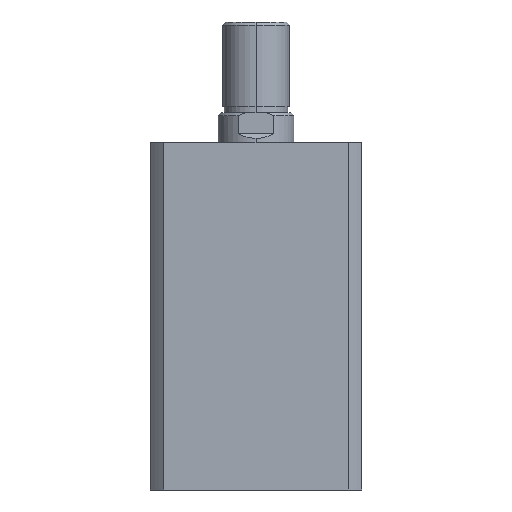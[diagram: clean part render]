
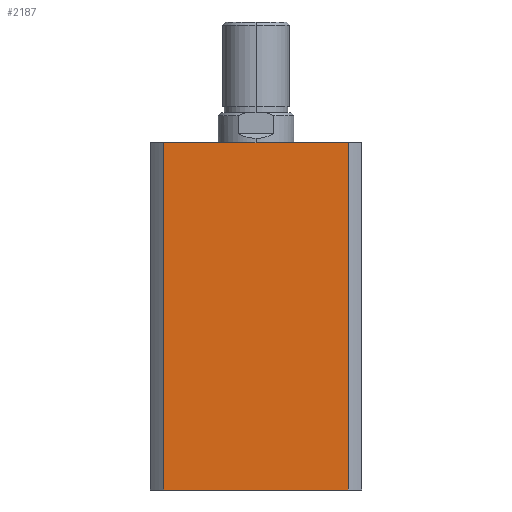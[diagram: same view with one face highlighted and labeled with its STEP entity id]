
A CAD part, left-side view. The second image highlights one B-rep face of the part: STEP entity #2187.
In plain terms, the highlighted planar face has unit normal (-1, 0, 0).
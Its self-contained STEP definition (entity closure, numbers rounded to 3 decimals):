
#23 = EDGE_CURVE ( 'NONE', #5011, #3749, #1191, .T. ) ;
#25 = EDGE_CURVE ( 'NONE', #4986, #5019, #1187, .T. ) ;
#26 = EDGE_CURVE ( 'NONE', #5011, #4986, #1189, .T. ) ;
#260 = FACE_OUTER_BOUND ( 'NONE', #2087, .T. ) ;
#287 = LINE ( 'NONE', #2547, #367 ) ;
#367 = VECTOR ( 'NONE', #2548, 1000. ) ;
#874 = CARTESIAN_POINT ( 'NONE',  ( -35., 0., 115. ) ) ;
#879 = PLANE ( 'NONE',  #2909 ) ;
#882 = DIRECTION ( 'NONE',  ( 1., 0., 0. ) ) ;
#883 = DIRECTION ( 'NONE',  ( 0., 1., 0. ) ) ;
#1183 = VECTOR ( 'NONE', #4553, 1000. ) ;
#1185 = VECTOR ( 'NONE', #4571, 1000. ) ;
#1187 = LINE ( 'NONE', #4564, #1185 ) ;
#1188 = VECTOR ( 'NONE', #4562, 1000. ) ;
#1189 = LINE ( 'NONE', #4557, #1183 ) ;
#1191 = LINE ( 'NONE', #4566, #1188 ) ;
#1858 = EDGE_CURVE ( 'NONE', #3749, #5019, #287, .T. ) ;
#2087 = EDGE_LOOP ( 'NONE', ( #4373, #4376, #4365, #4351 ) ) ;
#2187 = ADVANCED_FACE ( 'NONE', ( #260 ), #879, .F. ) ;
#2547 = CARTESIAN_POINT ( 'NONE',  ( -35., 0., 0. ) ) ;
#2548 = DIRECTION ( 'NONE',  ( 0., -1., 0. ) ) ;
#2909 = AXIS2_PLACEMENT_3D ( 'NONE', #874, #882, #883 ) ;
#3749 = VERTEX_POINT ( 'NONE', #3809 ) ;
#3809 = CARTESIAN_POINT ( 'NONE',  ( -35., 30.615, 0. ) ) ;
#3871 = CARTESIAN_POINT ( 'NONE',  ( -35., -30.615, 115. ) ) ;
#3896 = CARTESIAN_POINT ( 'NONE',  ( -35., 30.615, 115. ) ) ;
#3904 = CARTESIAN_POINT ( 'NONE',  ( -35., -30.615, 0. ) ) ;
#4351 = ORIENTED_EDGE ( 'NONE', *, *, #23, .T. ) ;
#4365 = ORIENTED_EDGE ( 'NONE', *, *, #26, .F. ) ;
#4373 = ORIENTED_EDGE ( 'NONE', *, *, #1858, .T. ) ;
#4376 = ORIENTED_EDGE ( 'NONE', *, *, #25, .F. ) ;
#4553 = DIRECTION ( 'NONE',  ( 0., -1., 0. ) ) ;
#4557 = CARTESIAN_POINT ( 'NONE',  ( -35., 0., 115. ) ) ;
#4562 = DIRECTION ( 'NONE',  ( 0., 0., -1. ) ) ;
#4564 = CARTESIAN_POINT ( 'NONE',  ( -35., -30.615, 115. ) ) ;
#4566 = CARTESIAN_POINT ( 'NONE',  ( -35., 30.615, 115. ) ) ;
#4571 = DIRECTION ( 'NONE',  ( 0., 0., -1. ) ) ;
#4986 = VERTEX_POINT ( 'NONE', #3871 ) ;
#5011 = VERTEX_POINT ( 'NONE', #3896 ) ;
#5019 = VERTEX_POINT ( 'NONE', #3904 ) ;
